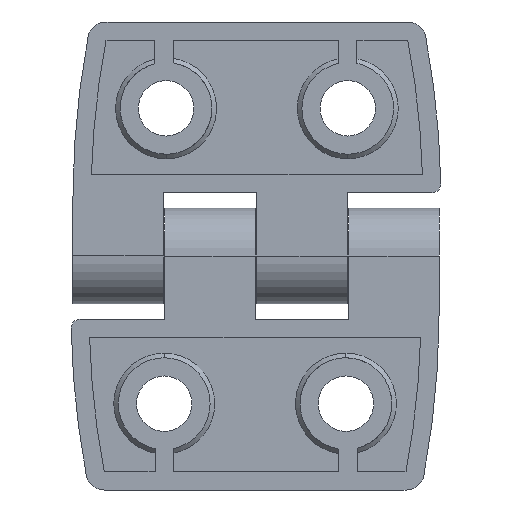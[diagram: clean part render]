
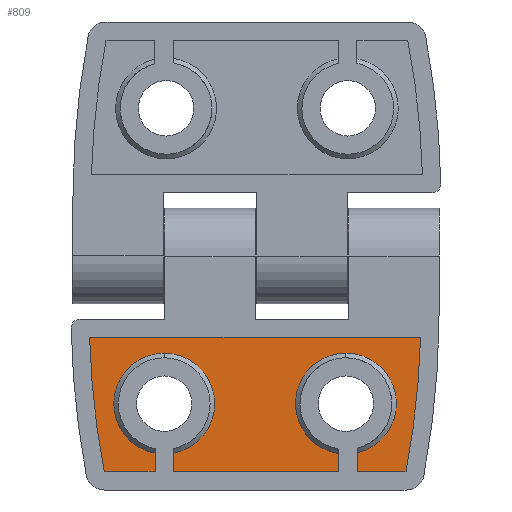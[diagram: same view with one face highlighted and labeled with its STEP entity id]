
A CAD part, front view. The second image highlights one B-rep face of the part: STEP entity #809.
In plain terms, the highlighted planar face has unit normal (0, -1, 0).
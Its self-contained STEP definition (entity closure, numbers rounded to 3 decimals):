
#29 = DIRECTION ( 'NONE',  ( 0., 0., -1. ) ) ;
#45 = DIRECTION ( 'NONE',  ( 0., 1., 0. ) ) ;
#59 = VERTEX_POINT ( 'NONE', #1204 ) ;
#102 = DIRECTION ( 'NONE',  ( 0., -1., 0. ) ) ;
#187 = LINE ( 'NONE', #1000, #1035 ) ;
#241 = LINE ( 'NONE', #1598, #922 ) ;
#288 = DIRECTION ( 'NONE',  ( 1., 0., 0. ) ) ;
#290 = EDGE_CURVE ( 'NONE', #2658, #1777, #2867, .T. ) ;
#306 = ORIENTED_EDGE ( 'NONE', *, *, #2648, .T. ) ;
#309 = CARTESIAN_POINT ( 'NONE',  ( -76.359, -3.45, -6.194 ) ) ;
#343 = DIRECTION ( 'NONE',  ( 0., 1., 0. ) ) ;
#383 = AXIS2_PLACEMENT_3D ( 'NONE', #2622, #102, #2347 ) ;
#393 = CIRCLE ( 'NONE', #1804, 5.549 ) ;
#431 = EDGE_CURVE ( 'NONE', #59, #1668, #3359, .T. ) ;
#484 = CARTESIAN_POINT ( 'NONE',  ( 9.217, -3.45, -23.75 ) ) ;
#570 = CARTESIAN_POINT ( 'NONE',  ( -18.21, -3.45, -8.95 ) ) ;
#572 = VECTOR ( 'NONE', #2977, 1000. ) ;
#613 = VECTOR ( 'NONE', #2235, 1000. ) ;
#646 = CARTESIAN_POINT ( 'NONE',  ( 16.607, -3.45, -23.75 ) ) ;
#695 = DIRECTION ( 'NONE',  ( 0., 0., -1. ) ) ;
#738 = CARTESIAN_POINT ( 'NONE',  ( 9.217, -3.45, -21.744 ) ) ;
#745 = VECTOR ( 'NONE', #1667, 1000. ) ;
#759 = CARTESIAN_POINT ( 'NONE',  ( -9., -3.45, -21.709 ) ) ;
#806 = ORIENTED_EDGE ( 'NONE', *, *, #1543, .T. ) ;
#808 = CARTESIAN_POINT ( 'NONE',  ( 76.359, -3.45, -6.194 ) ) ;
#809 = ADVANCED_FACE ( 'NONE', ( #1229 ), #1191, .T. ) ;
#851 = CIRCLE ( 'NONE', #1865, 94.609 ) ;
#886 = DIRECTION ( 'NONE',  ( 0., 0., -1. ) ) ;
#922 = VECTOR ( 'NONE', #1348, 1000. ) ;
#950 = EDGE_CURVE ( 'NONE', #2828, #2658, #3014, .T. ) ;
#991 = CARTESIAN_POINT ( 'NONE',  ( 9.217, -3.45, -23.75 ) ) ;
#1000 = CARTESIAN_POINT ( 'NONE',  ( -16.607, -3.45, -23.75 ) ) ;
#1024 = ORIENTED_EDGE ( 'NONE', *, *, #290, .T. ) ;
#1035 = VECTOR ( 'NONE', #1299, 1000. ) ;
#1050 = VERTEX_POINT ( 'NONE', #3356 ) ;
#1149 = AXIS2_PLACEMENT_3D ( 'NONE', #2551, #1180, #29 ) ;
#1174 = DIRECTION ( 'NONE',  ( 0., 0., -1. ) ) ;
#1180 = DIRECTION ( 'NONE',  ( 0., 1., 0. ) ) ;
#1191 = PLANE ( 'NONE',  #383 ) ;
#1195 = EDGE_CURVE ( 'NONE', #2886, #1050, #3405, .T. ) ;
#1204 = CARTESIAN_POINT ( 'NONE',  ( -9., -3.45, -23.75 ) ) ;
#1229 = FACE_OUTER_BOUND ( 'NONE', #3335, .T. ) ;
#1299 = DIRECTION ( 'NONE',  ( 1., 0., 0. ) ) ;
#1348 = DIRECTION ( 'NONE',  ( 1., 0., 0. ) ) ;
#1368 = CARTESIAN_POINT ( 'NONE',  ( -9., -3.45, -23.75 ) ) ;
#1425 = CARTESIAN_POINT ( 'NONE',  ( 10., -3.45, -16.25 ) ) ;
#1473 = ORIENTED_EDGE ( 'NONE', *, *, #1195, .T. ) ;
#1514 = CARTESIAN_POINT ( 'NONE',  ( -10., -3.45, -16.25 ) ) ;
#1515 = ORIENTED_EDGE ( 'NONE', *, *, #2549, .T. ) ;
#1531 = EDGE_CURVE ( 'NONE', #2832, #2886, #2435, .T. ) ;
#1543 = EDGE_CURVE ( 'NONE', #3569, #2832, #187, .T. ) ;
#1598 = CARTESIAN_POINT ( 'NONE',  ( 11.217, -3.45, -23.75 ) ) ;
#1607 = ORIENTED_EDGE ( 'NONE', *, *, #2080, .F. ) ;
#1659 = EDGE_CURVE ( 'NONE', #59, #2828, #3628, .T. ) ;
#1667 = DIRECTION ( 'NONE',  ( 1., 0., 0. ) ) ;
#1668 = VERTEX_POINT ( 'NONE', #759 ) ;
#1734 = EDGE_CURVE ( 'NONE', #2299, #2100, #241, .T. ) ;
#1746 = AXIS2_PLACEMENT_3D ( 'NONE', #1425, #45, #3406 ) ;
#1749 = LINE ( 'NONE', #2998, #572 ) ;
#1777 = VERTEX_POINT ( 'NONE', #3598 ) ;
#1804 = AXIS2_PLACEMENT_3D ( 'NONE', #2407, #2972, #695 ) ;
#1865 = AXIS2_PLACEMENT_3D ( 'NONE', #309, #2525, #1174 ) ;
#1891 = CARTESIAN_POINT ( 'NONE',  ( 18.21, -3.45, -8.95 ) ) ;
#1930 = VECTOR ( 'NONE', #288, 1000. ) ;
#1932 = CARTESIAN_POINT ( 'NONE',  ( 11.217, -3.45, -23.75 ) ) ;
#1947 = DIRECTION ( 'NONE',  ( 0., -1., 0. ) ) ;
#1954 = ORIENTED_EDGE ( 'NONE', *, *, #431, .F. ) ;
#1985 = ORIENTED_EDGE ( 'NONE', *, *, #1531, .T. ) ;
#2029 = CIRCLE ( 'NONE', #2616, 5.549 ) ;
#2080 = EDGE_CURVE ( 'NONE', #3234, #2933, #3378, .T. ) ;
#2100 = VERTEX_POINT ( 'NONE', #646 ) ;
#2118 = CARTESIAN_POINT ( 'NONE',  ( -11., -3.45, -23.75 ) ) ;
#2135 = ORIENTED_EDGE ( 'NONE', *, *, #3216, .T. ) ;
#2167 = EDGE_CURVE ( 'NONE', #2299, #2361, #1749, .T. ) ;
#2178 = CARTESIAN_POINT ( 'NONE',  ( 11.217, -3.45, -21.664 ) ) ;
#2196 = ORIENTED_EDGE ( 'NONE', *, *, #2755, .T. ) ;
#2235 = DIRECTION ( 'NONE',  ( 0., 0., 1. ) ) ;
#2299 = VERTEX_POINT ( 'NONE', #1932 ) ;
#2347 = DIRECTION ( 'NONE',  ( 0., 0., -1. ) ) ;
#2349 = ORIENTED_EDGE ( 'NONE', *, *, #2167, .F. ) ;
#2361 = VERTEX_POINT ( 'NONE', #2178 ) ;
#2397 = CARTESIAN_POINT ( 'NONE',  ( -16.607, -3.45, -23.75 ) ) ;
#2407 = CARTESIAN_POINT ( 'NONE',  ( 10., -3.45, -16.25 ) ) ;
#2435 = LINE ( 'NONE', #2649, #2860 ) ;
#2525 = DIRECTION ( 'NONE',  ( 0., -1., 0. ) ) ;
#2535 = ORIENTED_EDGE ( 'NONE', *, *, #1659, .T. ) ;
#2549 = EDGE_CURVE ( 'NONE', #1777, #2361, #393, .T. ) ;
#2551 = CARTESIAN_POINT ( 'NONE',  ( -10., -3.45, -16.25 ) ) ;
#2592 = CARTESIAN_POINT ( 'NONE',  ( -18.21, -3.45, -8.95 ) ) ;
#2616 = AXIS2_PLACEMENT_3D ( 'NONE', #1514, #343, #886 ) ;
#2622 = CARTESIAN_POINT ( 'NONE',  ( 76.359, -3.45, -6.194 ) ) ;
#2648 = EDGE_CURVE ( 'NONE', #3234, #3569, #3640, .T. ) ;
#2649 = CARTESIAN_POINT ( 'NONE',  ( -11., -3.45, -23.75 ) ) ;
#2658 = VERTEX_POINT ( 'NONE', #738 ) ;
#2710 = DIRECTION ( 'NONE',  ( 0., 0., 1. ) ) ;
#2755 = EDGE_CURVE ( 'NONE', #2100, #2933, #851, .T. ) ;
#2828 = VERTEX_POINT ( 'NONE', #991 ) ;
#2832 = VERTEX_POINT ( 'NONE', #2118 ) ;
#2860 = VECTOR ( 'NONE', #2710, 1000. ) ;
#2867 = CIRCLE ( 'NONE', #1746, 5.549 ) ;
#2886 = VERTEX_POINT ( 'NONE', #3232 ) ;
#2933 = VERTEX_POINT ( 'NONE', #1891 ) ;
#2972 = DIRECTION ( 'NONE',  ( 0., 1., 0. ) ) ;
#2977 = DIRECTION ( 'NONE',  ( 0., 0., 1. ) ) ;
#2998 = CARTESIAN_POINT ( 'NONE',  ( 11.217, -3.45, -23.75 ) ) ;
#3014 = LINE ( 'NONE', #484, #3295 ) ;
#3068 = DIRECTION ( 'NONE',  ( 0., 0., -1. ) ) ;
#3164 = AXIS2_PLACEMENT_3D ( 'NONE', #808, #1947, #3068 ) ;
#3216 = EDGE_CURVE ( 'NONE', #1050, #1668, #2029, .T. ) ;
#3232 = CARTESIAN_POINT ( 'NONE',  ( -11., -3.45, -21.709 ) ) ;
#3234 = VERTEX_POINT ( 'NONE', #2592 ) ;
#3295 = VECTOR ( 'NONE', #3636, 1000. ) ;
#3335 = EDGE_LOOP ( 'NONE', ( #3425, #1024, #1515, #2349, #3516, #2196, #1607, #306, #806, #1985, #1473, #2135, #1954, #2535 ) ) ;
#3356 = CARTESIAN_POINT ( 'NONE',  ( -10., -3.45, -10.701 ) ) ;
#3359 = LINE ( 'NONE', #3661, #613 ) ;
#3378 = LINE ( 'NONE', #570, #1930 ) ;
#3405 = CIRCLE ( 'NONE', #1149, 5.549 ) ;
#3406 = DIRECTION ( 'NONE',  ( 0., 0., -1. ) ) ;
#3425 = ORIENTED_EDGE ( 'NONE', *, *, #950, .T. ) ;
#3516 = ORIENTED_EDGE ( 'NONE', *, *, #1734, .T. ) ;
#3569 = VERTEX_POINT ( 'NONE', #2397 ) ;
#3598 = CARTESIAN_POINT ( 'NONE',  ( 10., -3.45, -10.701 ) ) ;
#3628 = LINE ( 'NONE', #1368, #745 ) ;
#3636 = DIRECTION ( 'NONE',  ( 0., 0., 1. ) ) ;
#3640 = CIRCLE ( 'NONE', #3164, 94.609 ) ;
#3661 = CARTESIAN_POINT ( 'NONE',  ( -9., -3.45, -23.75 ) ) ;
